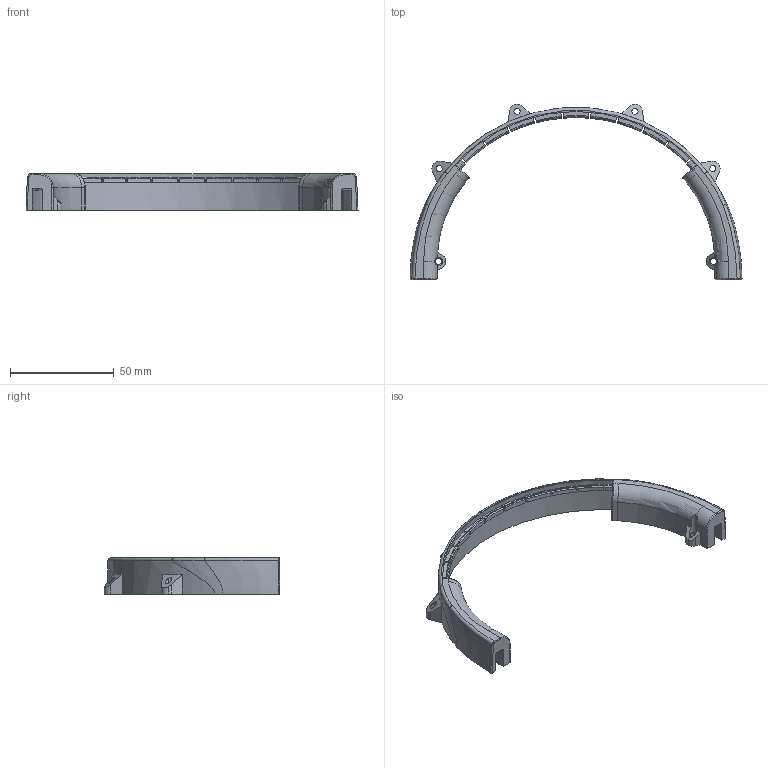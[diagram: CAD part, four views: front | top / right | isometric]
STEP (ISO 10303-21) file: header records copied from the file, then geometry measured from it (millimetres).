
FILE_DESCRIPTION (( 'STEP AP203' ), '1' );
FILE_NAME ('Razer Kraken X Headband Rear 02 (short).STEP', '2021-11-10T21:17:08', ( '' ), ( '' ), 'SwSTEP 2.0', 'SolidWorks 2020', '' );
FILE_SCHEMA (( 'CONFIG_CONTROL_DESIGN' ));
Length unit declared in the file: millimetre
Products named in the file (1): Razer Kraken X Headband Rear 02 (short)
Bounding box: 159.88 x 84.49 x 17.5 mm (x, y, z)
Volume: 22011.5 mm3; surface area: 16228.8 mm2
Topology: 1 solids, 1 shells, 231 faces, 638 edges, 418 vertices
Faces by surface type: plane 99, cylinder 72, torus 33, cone 17, bspline 10
Entity records: 8607 total; most frequent: CARTESIAN_POINT 2640, ORIENTED_EDGE 1276, DIRECTION 1214, EDGE_CURVE 638, AXIS2_PLACEMENT_3D 464, VERTEX_POINT 418, LINE 286, VECTOR 286
